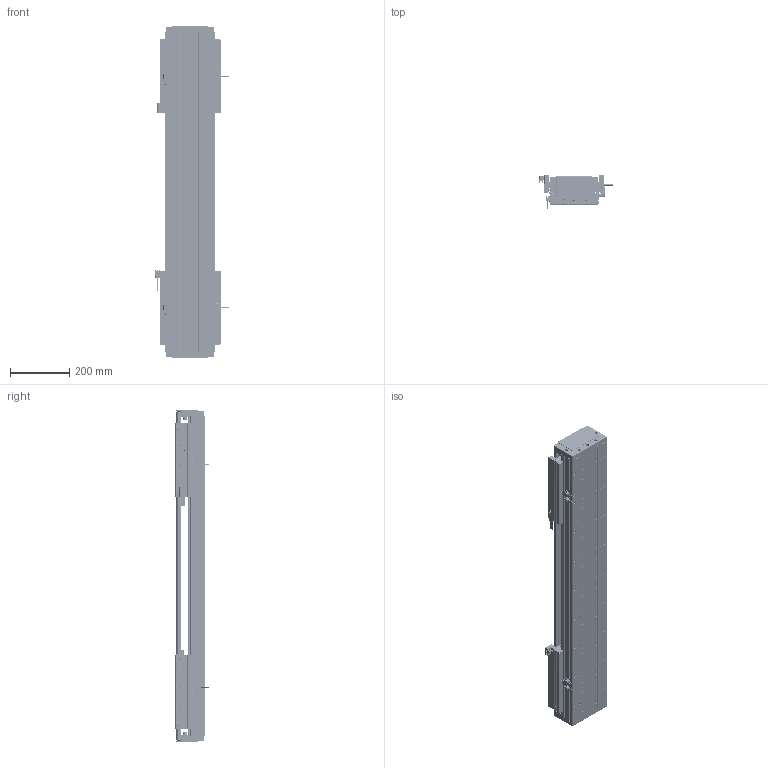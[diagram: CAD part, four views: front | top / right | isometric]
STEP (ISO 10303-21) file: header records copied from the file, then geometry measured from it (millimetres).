
FILE_DESCRIPTION (( 'STEP AP203' ), '1' );
FILE_NAME ('DA-C165-2-C3-T500-C010-0.2 直线电机.STEP', '2023-06-13T09:33:23', ( '微软用户' ), ( '微软中国' ), 'SwSTEP 2.0', 'SolidWorks 2019', '' );
FILE_SCHEMA (( 'CONFIG_CONTROL_DESIGN' ));
Length unit declared in the file: millimetre
Products named in the file (19): 复件 六角薄螺母 M3^DA-C165-C3-T-C010-0.2-N 直线电机_GB_FASTENER_NUT_STNAB M3-C; 复件 DA126-GYP-ZJ-00 中间光电感应片^DA-C165-C3-T-C010-0.2-N 直线电机; 葩璃 PM-T45^DA-C165-C3-T-C010-0.2-N 眻盄萇儂; 葩璃 CKM01-W075-TRL^DA-C165-C3-T-C010-0.2-N 眻盄萇儂; 复件 DA165-GYP-00 光电感应片^DA-C165-C3-T-C010-0.2-N 直线电机; 复件 DMA-010-0.2 读数头^DA-C165-C3-T-C010-0.2-N 直线电机; 复件 DA95-HXJ-00 缓冲橡胶^DA-C165-C3-T-C010-0.2-N 直线电机; 复件 66338-1000-006-00 光电感应块^DA-C165-C3-T-C010-0.2-N 直线电机; 复件 DA165-T-002-00 盖板^DA-C165-C3-T-C010-0.2-N 直线电机_0840-002-00; 珨极趙賑雄怢啣C3-wf; 复件 CU165 底座^IU-CU165-L 底座导轨_L1080; 复件 DKW-HXJ-JY-00 缓冲橡胶^DA-C165-C3-T-C010-0.2-N 直线电机; 葩璃 CKM03-W075-C1C2-TP-3.0^DA-C165-C3-T-C010-0.2-N 眻盄萇儂; IU-CU165-L 菁釱絳寢; DA-C165-2-C3-T500-C010-0.2 眻盄萇儂; 葩璃 PM-Y45^DA-C165-C3-T-C010-0.2-N 眻盄萇儂; 复件 DA165-DG-H-N-00 端盖^DA-C165-C3-T-C010-0.2-N 直线电机; 葩璃 DA95-GT-T-00^IU-CU165-L 菁釱絳寢_T; 复件 XD-U-02L 磁栅尺^DA-C165-C3-T-C010-0.2-N 直线电机_T
Assembly tree (40 placements, depth 3):
  DA-C165-2-C3-T500-C010-0.2 眻盄萇儂
    IU-CU165-L 菁釱絳寢
      复件 CU165 底座^IU-CU165-L 底座导轨_L1080
      葩璃 DA95-GT-T-00^IU-CU165-L 菁釱絳寢_T  x4
    复件 DA165-DG-H-N-00 端盖^DA-C165-C3-T-C010-0.2-N 直线电机  x2
    复件 DA95-HXJ-00 缓冲橡胶^DA-C165-C3-T-C010-0.2-N 直线电机  x4
    复件 DA165-T-002-00 盖板^DA-C165-C3-T-C010-0.2-N 直线电机_0840-002-00
    复件 XD-U-02L 磁栅尺^DA-C165-C3-T-C010-0.2-N 直线电机_T
    葩璃 PM-T45^DA-C165-C3-T-C010-0.2-N 眻盄萇儂  x4
    葩璃 CKM01-W075-TRL^DA-C165-C3-T-C010-0.2-N 眻盄萇儂
    复件 DMA-010-0.2 读数头^DA-C165-C3-T-C010-0.2-N 直线电机  x2
    复件 DA165-GYP-00 光电感应片^DA-C165-C3-T-C010-0.2-N 直线电机  x2
    复件 66338-1000-006-00 光电感应块^DA-C165-C3-T-C010-0.2-N 直线电机
    葩璃 PM-Y45^DA-C165-C3-T-C010-0.2-N 眻盄萇儂
    复件 DA126-GYP-ZJ-00 中间光电感应片^DA-C165-C3-T-C010-0.2-N 直线电机
    葩璃 CKM03-W075-C1C2-TP-3.0^DA-C165-C3-T-C010-0.2-N 眻盄萇儂  x2
    复件 DKW-HXJ-JY-00 缓冲橡胶^DA-C165-C3-T-C010-0.2-N 直线电机  x2
    复件 六角薄螺母 M3^DA-C165-C3-T-C010-0.2-N 直线电机_GB_FASTENER_NUT_STNAB M3-C  x8
    珨极趙賑雄怢啣C3-wf  x2
Bounding box: 247.2 x 111.45 x 1120 mm (x, y, z)
Volume: 10770932.6 mm3; surface area: 2689099 mm2
Topology: 117 solids, 217 shells, 5774 faces, 14999 edges, 9192 vertices
Faces by surface type: cylinder 2744, plane 1978, cone 956, torus 88, sphere 8
Entity records: 110698 total; most frequent: CARTESIAN_POINT 25762, DIRECTION 17527, ORIENTED_EDGE 16884, EDGE_CURVE 8442, AXIS2_PLACEMENT_3D 6593, VERTEX_POINT 5446, LINE 4341, VECTOR 4341
